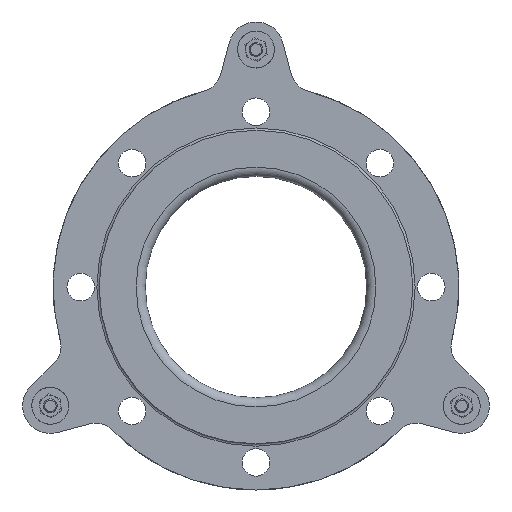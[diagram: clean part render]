
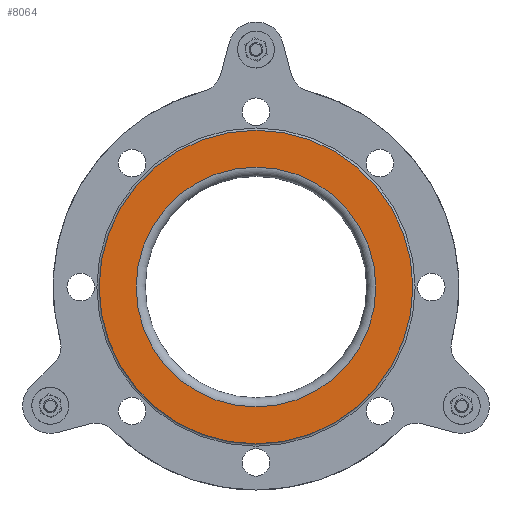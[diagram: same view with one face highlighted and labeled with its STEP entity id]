
A CAD part, front view. The second image highlights one B-rep face of the part: STEP entity #8064.
In plain terms, the highlighted planar face has unit normal (0, -1, 0).
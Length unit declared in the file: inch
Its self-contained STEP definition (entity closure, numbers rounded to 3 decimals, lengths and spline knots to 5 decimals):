
#1889=FACE_BOUND('',#2977,.T.);
#2273=FACE_OUTER_BOUND('',#2976,.T.);
#2976=EDGE_LOOP('',(#6833));
#2977=EDGE_LOOP('',(#6834));
#3501=CIRCLE('',#8872,4.25);
#3538=CIRCLE('',#8947,3.25);
#4102=VERTEX_POINT('',#13873);
#4139=VERTEX_POINT('',#13985);
#5019=EDGE_CURVE('',#4102,#4102,#3501,.T.);
#5056=EDGE_CURVE('',#4139,#4139,#3538,.T.);
#6833=ORIENTED_EDGE('',*,*,#5019,.F.);
#6834=ORIENTED_EDGE('',*,*,#5056,.T.);
#7646=PLANE('',#8948);
#8064=ADVANCED_FACE('',(#2273,#1889),#7646,.T.);
#8872=AXIS2_PLACEMENT_3D('',#13874,#10654,#10655);
#8947=AXIS2_PLACEMENT_3D('',#13986,#10804,#10805);
#8948=AXIS2_PLACEMENT_3D('',#13987,#10806,#10807);
#10654=DIRECTION('center_axis',(0.,1.,0.));
#10655=DIRECTION('ref_axis',(1.,0.,0.));
#10804=DIRECTION('center_axis',(0.,1.,0.));
#10805=DIRECTION('ref_axis',(1.,0.,0.));
#10806=DIRECTION('center_axis',(0.,-1.,0.));
#10807=DIRECTION('ref_axis',(-1.,0.,0.));
#13873=CARTESIAN_POINT('',(3.76654,-4.3125,-4.25));
#13874=CARTESIAN_POINT('Origin',(3.76654,-4.3125,0.));
#13985=CARTESIAN_POINT('',(3.76654,-4.3125,-3.25));
#13986=CARTESIAN_POINT('Origin',(3.76654,-4.3125,0.));
#13987=CARTESIAN_POINT('Origin',(3.76654,-4.3125,-4.25));
